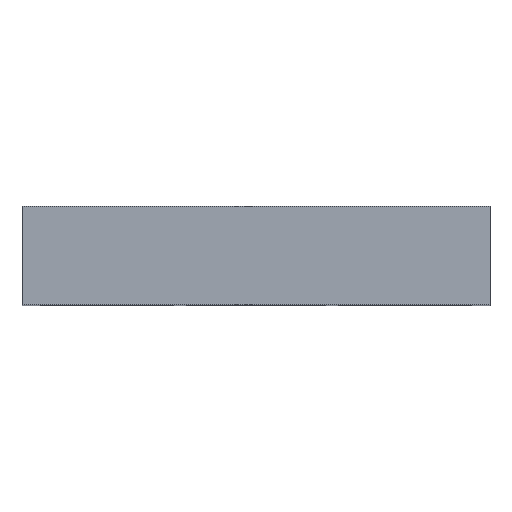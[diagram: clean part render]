
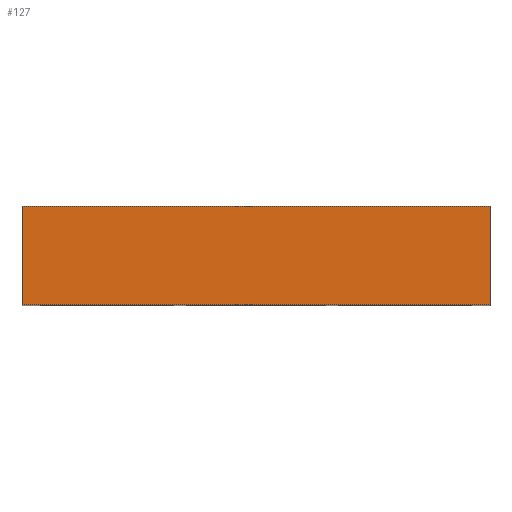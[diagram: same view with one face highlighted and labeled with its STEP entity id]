
A CAD part, top view. The second image highlights one B-rep face of the part: STEP entity #127.
In plain terms, the highlighted planar face has unit normal (0, 0, 1).
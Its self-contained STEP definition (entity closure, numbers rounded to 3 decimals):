
#27 = EDGE_CURVE ( 'NONE', #240, #237, #1017, .T. ) ;
#34 = EDGE_CURVE ( 'NONE', #237, #246, #993, .T. ) ;
#37 = EDGE_CURVE ( 'NONE', #243, #246, #961, .T. ) ;
#41 = EDGE_CURVE ( 'NONE', #240, #243, #978, .T. ) ;
#115 = AXIS2_PLACEMENT_3D ( 'NONE', #472, #478, #479 ) ;
#127 = ADVANCED_FACE ( 'NONE', ( #841 ), #469, .F. ) ;
#237 = VERTEX_POINT ( 'NONE', #660 ) ;
#240 = VERTEX_POINT ( 'NONE', #663 ) ;
#243 = VERTEX_POINT ( 'NONE', #666 ) ;
#246 = VERTEX_POINT ( 'NONE', #669 ) ;
#310 = CARTESIAN_POINT ( 'NONE',  ( -154., 65., 214.5 ) ) ;
#313 = DIRECTION ( 'NONE',  ( 1., 0., 0. ) ) ;
#326 = CARTESIAN_POINT ( 'NONE',  ( 154., 65., 214.5 ) ) ;
#327 = DIRECTION ( 'NONE',  ( 0., -1., 0. ) ) ;
#332 = CARTESIAN_POINT ( 'NONE',  ( -154., 0., 214.5 ) ) ;
#333 = DIRECTION ( 'NONE',  ( 1., 0., 0. ) ) ;
#334 = CARTESIAN_POINT ( 'NONE',  ( -154., 65., 214.5 ) ) ;
#341 = DIRECTION ( 'NONE',  ( 0., -1., 0. ) ) ;
#469 = PLANE ( 'NONE',  #115 ) ;
#472 = CARTESIAN_POINT ( 'NONE',  ( -154., 65., 214.5 ) ) ;
#478 = DIRECTION ( 'NONE',  ( 0., 0., -1. ) ) ;
#479 = DIRECTION ( 'NONE',  ( -1., 0., 0. ) ) ;
#660 = CARTESIAN_POINT ( 'NONE',  ( 154., 65., 214.5 ) ) ;
#663 = CARTESIAN_POINT ( 'NONE',  ( -154., 65., 214.5 ) ) ;
#666 = CARTESIAN_POINT ( 'NONE',  ( -154., 0., 214.5 ) ) ;
#669 = CARTESIAN_POINT ( 'NONE',  ( 154., 0., 214.5 ) ) ;
#727 = ORIENTED_EDGE ( 'NONE', *, *, #41, .T. ) ;
#841 = FACE_OUTER_BOUND ( 'NONE', #1030, .T. ) ;
#953 = VECTOR ( 'NONE', #341, 1000. ) ;
#960 = VECTOR ( 'NONE', #333, 1000. ) ;
#961 = LINE ( 'NONE', #332, #960 ) ;
#971 = VECTOR ( 'NONE', #313, 1000. ) ;
#978 = LINE ( 'NONE', #334, #953 ) ;
#991 = VECTOR ( 'NONE', #327, 1000. ) ;
#993 = LINE ( 'NONE', #326, #991 ) ;
#1017 = LINE ( 'NONE', #310, #971 ) ;
#1030 = EDGE_LOOP ( 'NONE', ( #1120, #1116, #1064, #727 ) ) ;
#1064 = ORIENTED_EDGE ( 'NONE', *, *, #27, .F. ) ;
#1116 = ORIENTED_EDGE ( 'NONE', *, *, #34, .F. ) ;
#1120 = ORIENTED_EDGE ( 'NONE', *, *, #37, .T. ) ;
